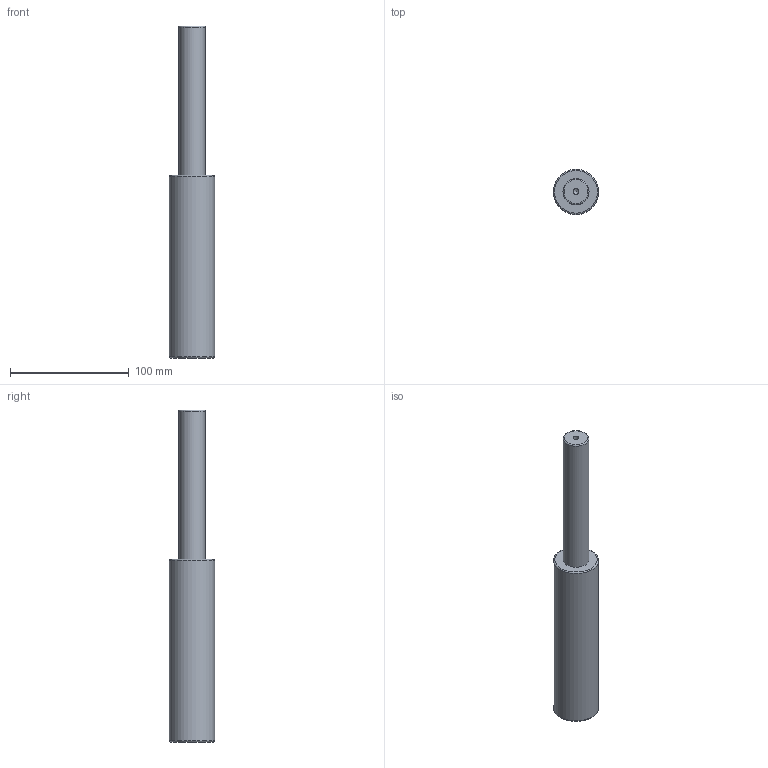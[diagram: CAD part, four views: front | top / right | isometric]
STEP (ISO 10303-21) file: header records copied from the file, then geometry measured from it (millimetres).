
FILE_DESCRIPTION(/* description */ (''),/* implementation_level */ '2;1');
FILE_NAME(/* name */ 'NV5-SMLX.38x125.stp',/* time_stamp */ '2018-08-31T16:08:36+02:00',/* author */ (''),/* organization */ (''),/* preprocessor_version */ 'ST-DEVELOPER v16',/* originating_system */ 'SIEMENS PLM Software NX 10.0',/* authorisation */ '');
FILE_SCHEMA (('AUTOMOTIVE_DESIGN { 1 0 10303 214 3 1 1 1 }'));
Length unit declared in the file: millimetre
Products named in the file (1): NV5-SMLX.38x125
Bounding box: 38 x 38 x 280 mm (x, y, z)
Volume: 221653.6 mm3; surface area: 29751.8 mm2
Topology: 1 solids, 1 shells, 12 faces, 24 edges, 15 vertices
Faces by surface type: cylinder 4, torus 3, plane 3, cone 2
Full cylindrical faces by diameter (mm): 5 x1, 6.8 x1, 22 x1, 38 x1
Entity records: 266 total; most frequent: DIRECTION 48, CARTESIAN_POINT 37, FACE_BOUND 24, AXIS2_PLACEMENT_3D 24, EDGE_LOOP 22, ORIENTED_EDGE 22, VERTEX_POINT 13, ADVANCED_FACE 12
